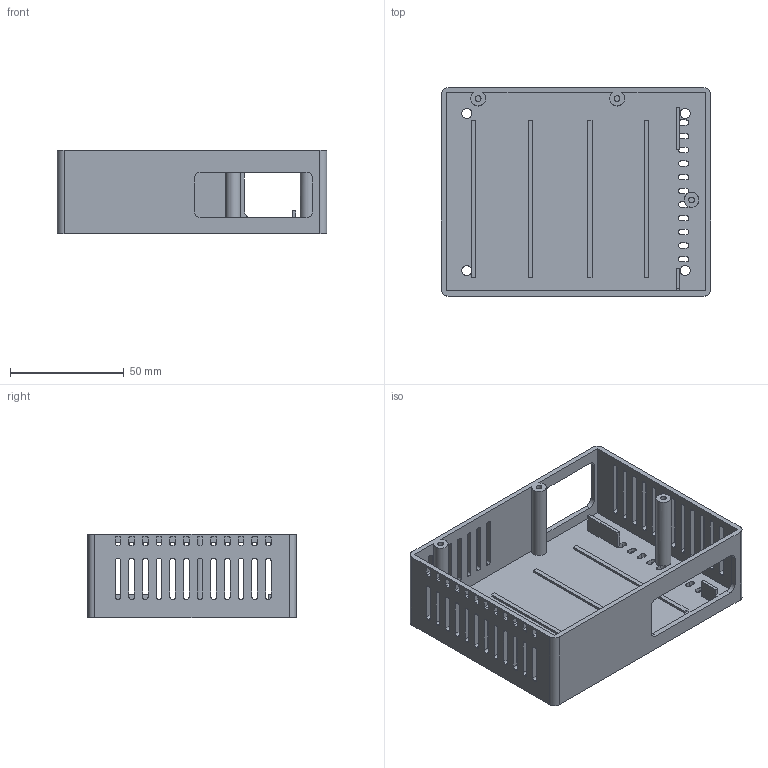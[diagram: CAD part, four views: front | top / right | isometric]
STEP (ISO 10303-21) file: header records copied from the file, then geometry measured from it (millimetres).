
FILE_DESCRIPTION(('Open CASCADE Model'),'2;1');
FILE_NAME('Open CASCADE Shape Model','2026-10-26T23:48:28',('Author'),( 'Open CASCADE'),'Open CASCADE STEP processor 7.9','Open CASCADE 7.9' ,'Unknown');
FILE_SCHEMA(('AUTOMOTIVE_DESIGN { 1 0 10303 214 1 1 1 1 }'));
Length unit declared in the file: millimetre
Products named in the file (1): Open CASCADE STEP translator 7.9 1
Bounding box: 118.3 x 91.4 x 36.5 mm (x, y, z)
Volume: 48354.4 mm3; surface area: 50595.4 mm2
Topology: 1 solids, 1 shells, 477 faces, 1413 edges, 942 vertices
Faces by surface type: plane 257, cylinder 220
Full cylindrical faces by diameter (mm): 2.5 x3, 4.4 x4, 6.5 x1
Entity records: 35799 total; most frequent: CARTESIAN_POINT 7922, DIRECTION 5252, LINE 3304, VECTOR 3304, ORIENTED_EDGE 2826, PCURVE 2826, DEFINITIONAL_REPRESENTATION 2826, EDGE_CURVE 1413
